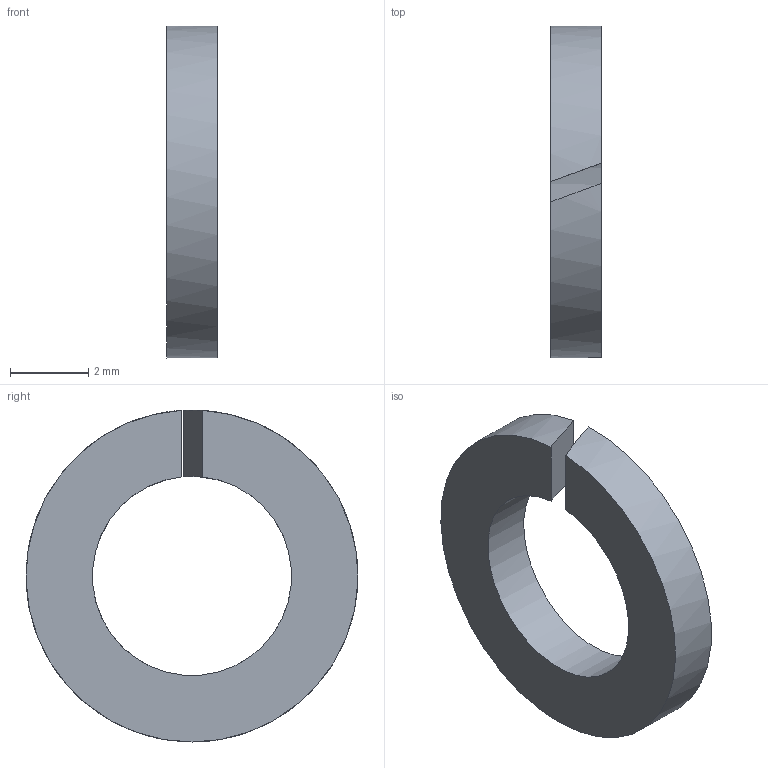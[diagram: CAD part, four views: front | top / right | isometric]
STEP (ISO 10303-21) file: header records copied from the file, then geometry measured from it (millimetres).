
FILE_DESCRIPTION(/* description */ ('스프링 잠금 와셔'),/* implementation_level */ '2;1');
FILE_NAME(/* name */ '',/* time_stamp */ '2024-09-10T16:33:57+09:00',/* author */ ('jhkim'),/* organization */ (''),/* preprocessor_version */ 'ST-DEVELOPER v20',/* originating_system */ 'Autodesk Inventor 2025',/* authorisation */ '');
FILE_SCHEMA (('AUTOMOTIVE_DESIGN { 1 0 10303 214 3 1 1 }'));
Length unit declared in the file: millimetre
Products named in the file (1): 스프링와셔 M5
Bounding box: 1.3 x 8.5 x 8.5 mm (x, y, z)
Volume: 46.1 mm3; surface area: 129.8 mm2
Topology: 1 solids, 1 shells, 6 faces, 12 edges, 8 vertices
Faces by surface type: plane 4, cylinder 2
Entity records: 207 total; most frequent: DIRECTION 34, CARTESIAN_POINT 27, ORIENTED_EDGE 24, AXIS2_PLACEMENT_3D 15, EDGE_CURVE 12, VERTEX_POINT 8, FACE_OUTER_BOUND 6, EDGE_LOOP 6
